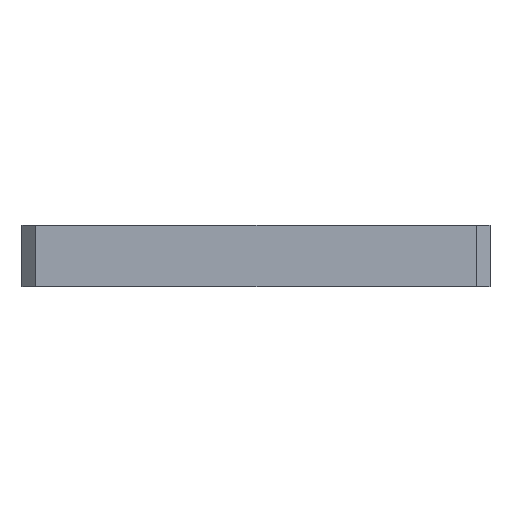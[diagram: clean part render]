
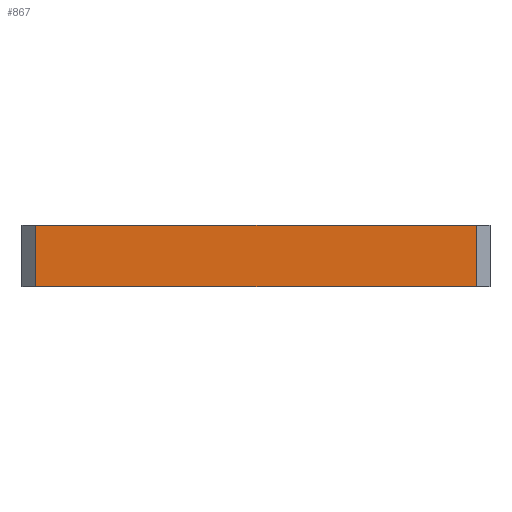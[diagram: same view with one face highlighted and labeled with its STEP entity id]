
A CAD part, left-side view. The second image highlights one B-rep face of the part: STEP entity #867.
In plain terms, the highlighted planar face has unit normal (-1, 0, 0).
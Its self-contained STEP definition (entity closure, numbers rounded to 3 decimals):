
#189 = VECTOR ( 'NONE', #420, 1000. ) ;
#326 = VECTOR ( 'NONE', #1213, 1000. ) ;
#336 = ORIENTED_EDGE ( 'NONE', *, *, #747, .T. ) ;
#420 = DIRECTION ( 'NONE',  ( 0., -1., 0. ) ) ;
#523 = VERTEX_POINT ( 'NONE', #750 ) ;
#548 = CARTESIAN_POINT ( 'NONE',  ( -61.5, -55., 9. ) ) ;
#608 = CARTESIAN_POINT ( 'NONE',  ( -61.5, 10., 9. ) ) ;
#624 = EDGE_CURVE ( 'NONE', #1397, #1575, #792, .T. ) ;
#717 = EDGE_CURVE ( 'NONE', #782, #523, #1119, .T. ) ;
#724 = CARTESIAN_POINT ( 'NONE',  ( -61.5, 10., 9. ) ) ;
#747 = EDGE_CURVE ( 'NONE', #1397, #782, #1559, .T. ) ;
#750 = CARTESIAN_POINT ( 'NONE',  ( -61.5, -55., 0. ) ) ;
#765 = DIRECTION ( 'NONE',  ( 0., -1., 0. ) ) ;
#778 = DIRECTION ( 'NONE',  ( 0., 0., -1. ) ) ;
#782 = VERTEX_POINT ( 'NONE', #856 ) ;
#785 = VECTOR ( 'NONE', #765, 1000. ) ;
#792 = LINE ( 'NONE', #608, #189 ) ;
#856 = CARTESIAN_POINT ( 'NONE',  ( -61.5, 10., 0. ) ) ;
#867 = ADVANCED_FACE ( 'NONE', ( #1412 ), #1480, .F. ) ;
#893 = DIRECTION ( 'NONE',  ( 0., 0., -1. ) ) ;
#898 = ORIENTED_EDGE ( 'NONE', *, *, #624, .F. ) ;
#936 = CARTESIAN_POINT ( 'NONE',  ( -61.5, 10., 0. ) ) ;
#943 = AXIS2_PLACEMENT_3D ( 'NONE', #1134, #954, #778 ) ;
#954 = DIRECTION ( 'NONE',  ( 1., 0., 0. ) ) ;
#963 = VECTOR ( 'NONE', #893, 1000. ) ;
#1045 = EDGE_CURVE ( 'NONE', #1575, #523, #1422, .T. ) ;
#1070 = CARTESIAN_POINT ( 'NONE',  ( -61.5, -55., 9. ) ) ;
#1119 = LINE ( 'NONE', #936, #785 ) ;
#1134 = CARTESIAN_POINT ( 'NONE',  ( -61.5, 10., 9. ) ) ;
#1213 = DIRECTION ( 'NONE',  ( 0., 0., -1. ) ) ;
#1304 = EDGE_LOOP ( 'NONE', ( #1465, #1457, #898, #336 ) ) ;
#1389 = CARTESIAN_POINT ( 'NONE',  ( -61.5, 10., 9. ) ) ;
#1397 = VERTEX_POINT ( 'NONE', #724 ) ;
#1412 = FACE_OUTER_BOUND ( 'NONE', #1304, .T. ) ;
#1422 = LINE ( 'NONE', #1070, #963 ) ;
#1457 = ORIENTED_EDGE ( 'NONE', *, *, #1045, .F. ) ;
#1465 = ORIENTED_EDGE ( 'NONE', *, *, #717, .T. ) ;
#1480 = PLANE ( 'NONE',  #943 ) ;
#1559 = LINE ( 'NONE', #1389, #326 ) ;
#1575 = VERTEX_POINT ( 'NONE', #548 ) ;
